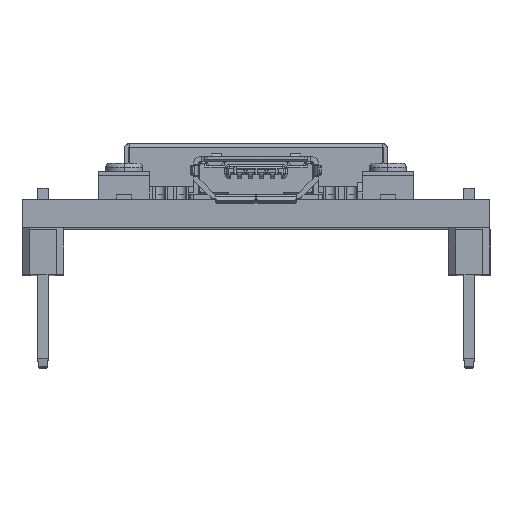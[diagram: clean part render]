
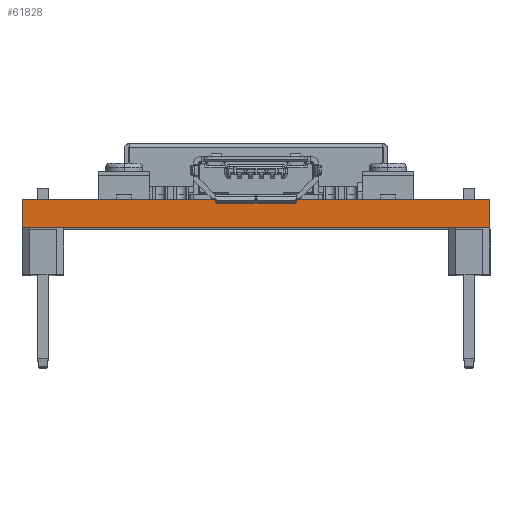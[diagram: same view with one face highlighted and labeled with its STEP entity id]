
A CAD part, top view. The second image highlights one B-rep face of the part: STEP entity #61828.
In plain terms, the highlighted planar face has unit normal (0, 0, 1).
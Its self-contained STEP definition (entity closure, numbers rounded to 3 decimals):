
#2308 = ORIENTED_EDGE ( 'NONE', *, *, #46951, .F. ) ;
#3862 = DIRECTION ( 'NONE',  ( 0., 1., 0. ) ) ;
#13099 = VERTEX_POINT ( 'NONE', #69544 ) ;
#13422 = EDGE_CURVE ( 'NONE', #24189, #23726, #35075, .T. ) ;
#16994 = CARTESIAN_POINT ( 'NONE',  ( 13.95, 2.8, 24.1 ) ) ;
#17194 = VECTOR ( 'NONE', #34898, 1000. ) ;
#19229 = VECTOR ( 'NONE', #48528, 1000. ) ;
#22392 = LINE ( 'NONE', #36216, #43218 ) ;
#23141 = LINE ( 'NONE', #36154, #17194 ) ;
#23726 = VERTEX_POINT ( 'NONE', #16994 ) ;
#24189 = VERTEX_POINT ( 'NONE', #72747 ) ;
#25699 = FACE_OUTER_BOUND ( 'NONE', #28061, .T. ) ;
#27965 = VERTEX_POINT ( 'NONE', #56086 ) ;
#28061 = EDGE_LOOP ( 'NONE', ( #65424, #31120, #30920, #2308 ) ) ;
#30920 = ORIENTED_EDGE ( 'NONE', *, *, #64716, .T. ) ;
#31120 = ORIENTED_EDGE ( 'NONE', *, *, #13422, .F. ) ;
#31995 = DIRECTION ( 'NONE',  ( 1., 0., 0. ) ) ;
#34898 = DIRECTION ( 'NONE',  ( -1., 0., 0. ) ) ;
#35075 = LINE ( 'NONE', #67815, #19229 ) ;
#36154 = CARTESIAN_POINT ( 'NONE',  ( 0., 4.5, 24.1 ) ) ;
#36216 = CARTESIAN_POINT ( 'NONE',  ( -13.95, 4.5, 24.1 ) ) ;
#38306 = PLANE ( 'NONE',  #52993 ) ;
#43218 = VECTOR ( 'NONE', #3862, 1000. ) ;
#46428 = DIRECTION ( 'NONE',  ( 1., 0., 0. ) ) ;
#46951 = EDGE_CURVE ( 'NONE', #27965, #13099, #22392, .T. ) ;
#48528 = DIRECTION ( 'NONE',  ( 0., -1., 0. ) ) ;
#52993 = AXIS2_PLACEMENT_3D ( 'NONE', #57592, #63888, #31995 ) ;
#55736 = EDGE_CURVE ( 'NONE', #27965, #23726, #66557, .T. ) ;
#56086 = CARTESIAN_POINT ( 'NONE',  ( -13.95, 2.8, 24.1 ) ) ;
#57592 = CARTESIAN_POINT ( 'NONE',  ( 0., 4.5, 24.1 ) ) ;
#61828 = ADVANCED_FACE ( 'NONE', ( #25699 ), #38306, .T. ) ;
#63888 = DIRECTION ( 'NONE',  ( 0., 0., 1. ) ) ;
#64716 = EDGE_CURVE ( 'NONE', #24189, #13099, #23141, .T. ) ;
#65302 = CARTESIAN_POINT ( 'NONE',  ( 0., 2.8, 24.1 ) ) ;
#65424 = ORIENTED_EDGE ( 'NONE', *, *, #55736, .T. ) ;
#66557 = LINE ( 'NONE', #65302, #68547 ) ;
#67815 = CARTESIAN_POINT ( 'NONE',  ( 13.95, 4.5, 24.1 ) ) ;
#68547 = VECTOR ( 'NONE', #46428, 1000. ) ;
#69544 = CARTESIAN_POINT ( 'NONE',  ( -13.95, 4.5, 24.1 ) ) ;
#72747 = CARTESIAN_POINT ( 'NONE',  ( 13.95, 4.5, 24.1 ) ) ;
